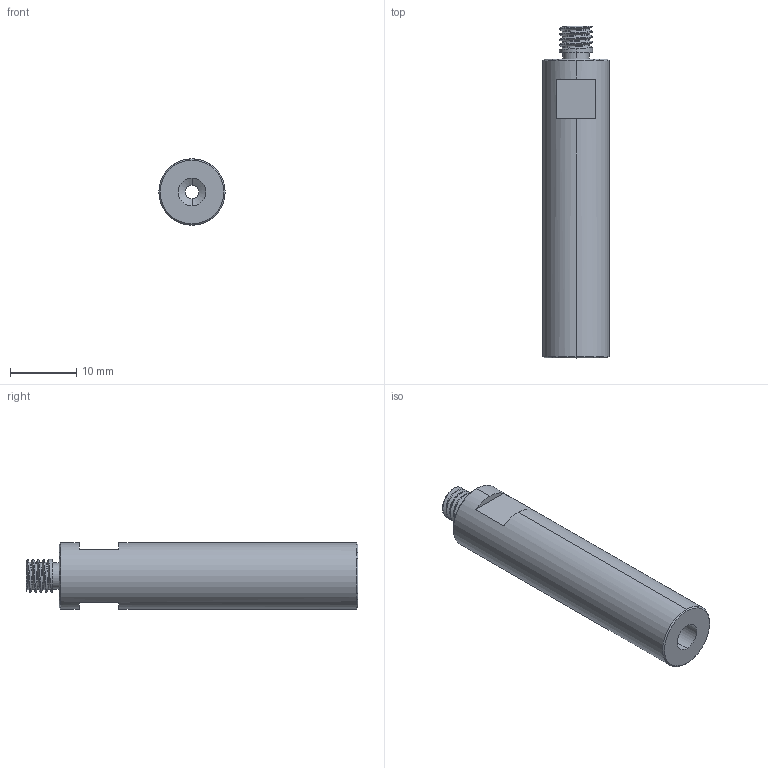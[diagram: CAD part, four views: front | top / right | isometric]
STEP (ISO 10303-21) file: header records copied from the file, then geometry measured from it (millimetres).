
FILE_DESCRIPTION (( 'STEP AP214' ), '1' );
FILE_NAME ('SMBY1050M5.STEP', '2022-12-05T08:06:19', ( '微软用户' ), ( '微软中国' ), 'SwSTEP 2.0', 'SolidWorks 2018', '' );
FILE_SCHEMA (( 'AUTOMOTIVE_DESIGN' ));
Length unit declared in the file: millimetre
Products named in the file (2): SMBY1050M5
Bounding box: 10 x 50 x 10 mm (x, y, z)
Volume: 2929.9 mm3; surface area: 2307.1 mm2
Topology: 1 solids, 1 shells, 46 faces, 109 edges, 68 vertices
Faces by surface type: cylinder 21, plane 12, cone 6, torus 4, bspline 3
Entity records: 2860 total; most frequent: CARTESIAN_POINT 1769, DIRECTION 218, ORIENTED_EDGE 218, EDGE_CURVE 109, AXIS2_PLACEMENT_3D 89, VERTEX_POINT 68, EDGE_LOOP 51, FACE_OUTER_BOUND 46
